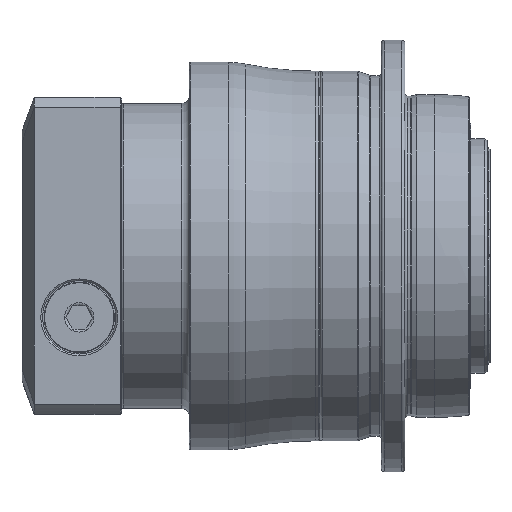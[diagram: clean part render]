
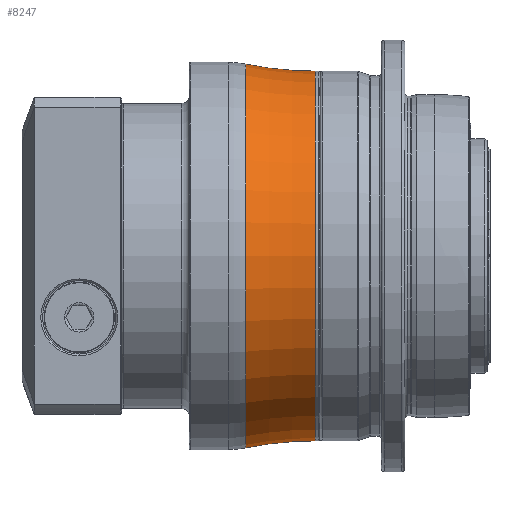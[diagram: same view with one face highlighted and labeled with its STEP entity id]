
A CAD part, top view. The second image highlights one B-rep face of the part: STEP entity #8247.
In plain terms, the highlighted toroidal (fillet/blend) face has major radius 181.542 mm and minor radius 118.542 mm.
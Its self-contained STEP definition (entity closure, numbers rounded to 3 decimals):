
#7761=CARTESIAN_POINT('',(-42.296,0.,0.));
#7762=DIRECTION('',(1.,0.,0.));
#7763=DIRECTION('',(0.,1.,0.));
#7764=AXIS2_PLACEMENT_3D('',#7761,#7762,#7763);
#7766=CARTESIAN_POINT('',(-66.,0.,0.));
#7767=DIRECTION('',(1.,0.,0.));
#7768=DIRECTION('',(0.,1.,0.));
#7769=AXIS2_PLACEMENT_3D('',#7766,#7767,#7768);
#7824=CARTESIAN_POINT('',(-66.,181.542,0.));
#7825=DIRECTION('',(0.,0.,1.));
#7826=DIRECTION('',(0.,-1.,0.));
#7827=AXIS2_PLACEMENT_3D('',#7824,#7825,#7826);
#7834=CARTESIAN_POINT('',(-66.,-181.542,0.));
#7835=DIRECTION('',(0.,0.,-1.));
#7836=DIRECTION('',(0.,1.,0.));
#7837=AXIS2_PLACEMENT_3D('',#7834,#7835,#7836);
#7939=CARTESIAN_POINT('',(-66.,63.,0.));
#7940=VERTEX_POINT('',#7939);
#7941=CARTESIAN_POINT('',(-66.,-63.,0.));
#7942=VERTEX_POINT('',#7941);
#7979=CARTESIAN_POINT('',(-42.296,65.394,0.));
#7980=CARTESIAN_POINT('',(-42.296,-65.394,0.));
#7981=VERTEX_POINT('',#7979);
#7982=VERTEX_POINT('',#7980);
#8233=CARTESIAN_POINT('',(-66.,0.,0.));
#8234=DIRECTION('',(1.,0.,0.));
#8235=DIRECTION('',(0.,-1.,0.));
#8236=AXIS2_PLACEMENT_3D('',#8233,#8234,#8235);
#8237=TOROIDAL_SURFACE('',#8236,181.542,118.542);
#8239=ORIENTED_EDGE('',*,*,#8238,.T.);
#8241=ORIENTED_EDGE('',*,*,#8240,.F.);
#8242=ORIENTED_EDGE('',*,*,#8227,.F.);
#8244=ORIENTED_EDGE('',*,*,#8243,.T.);
#8245=EDGE_LOOP('',(#8239,#8241,#8242,#8244));
#8246=FACE_OUTER_BOUND('',#8245,.F.);
#8247=ADVANCED_FACE('',(#8246),#8237,.F.);
#7765=CIRCLE('',#7764,65.394);
#7770=CIRCLE('',#7769,63.);
#7828=CIRCLE('',#7827,118.542);
#7838=CIRCLE('',#7837,118.542);
#8227=EDGE_CURVE('',#7940,#7942,#7770,.T.);
#8238=EDGE_CURVE('',#7981,#7982,#7765,.T.);
#8240=EDGE_CURVE('',#7942,#7982,#7838,.T.);
#8243=EDGE_CURVE('',#7940,#7981,#7828,.T.);
